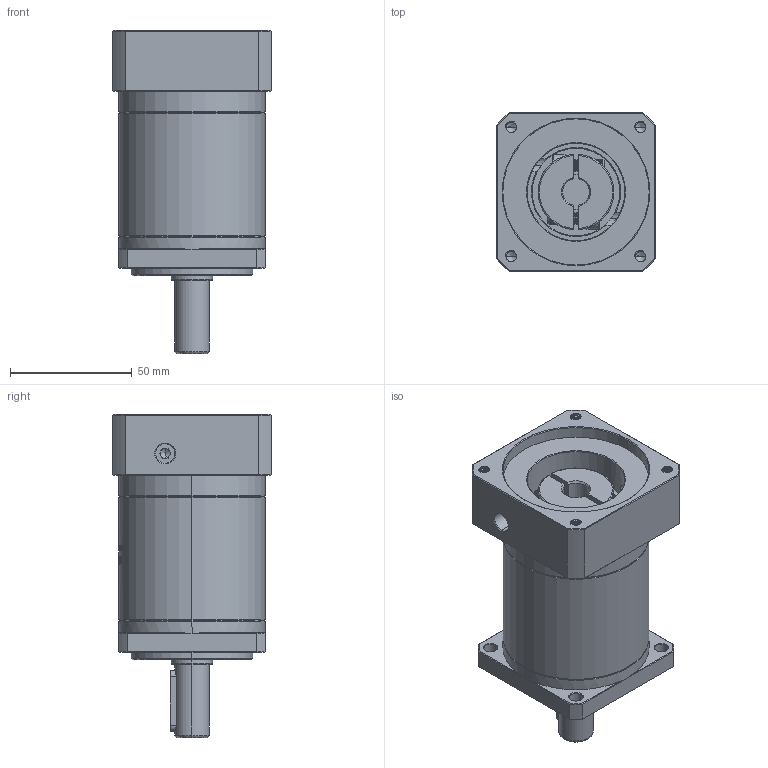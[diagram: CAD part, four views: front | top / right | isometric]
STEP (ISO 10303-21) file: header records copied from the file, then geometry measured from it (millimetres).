
FILE_DESCRIPTION (( 'STEP AP214' ), '1' );
FILE_NAME ('ZF60-D14-L2-11-60-75-M5.STEP', '2022-04-17T11:40:50', ( '' ), ( 'Microsoft' ), 'SwSTEP 2.0', 'SolidWorks 2016', '' );
FILE_SCHEMA (( 'AUTOMOTIVE_DESIGN' ));
Length unit declared in the file: millimetre
Products named in the file (1): ZF60-D14-L2-11-60-75-M5
Bounding box: 65 x 65 x 132.5 mm (x, y, z)
Volume: 283754.2 mm3; surface area: 49903.2 mm2
Topology: 6 solids, 6 shells, 1661 faces, 4484 edges, 2900 vertices
Faces by surface type: plane 749, cylinder 359, bspline 299, cone 234, torus 20
Entity records: 94455 total; most frequent: CARTESIAN_POINT 38258, ORIENTED_EDGE 8940, DIRECTION 6571, EDGE_CURVE 4470, VERTEX_POINT 2900, VECTOR 2279, LINE 2279, AXIS2_PLACEMENT_3D 2146
